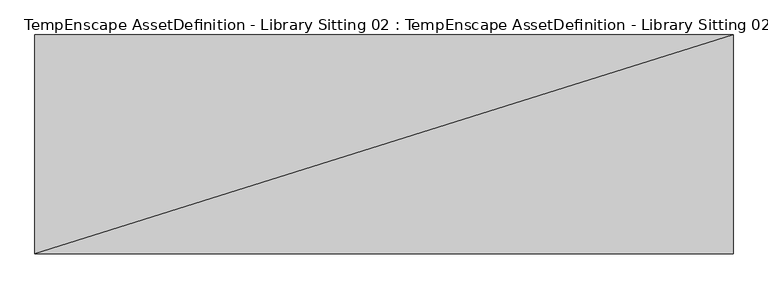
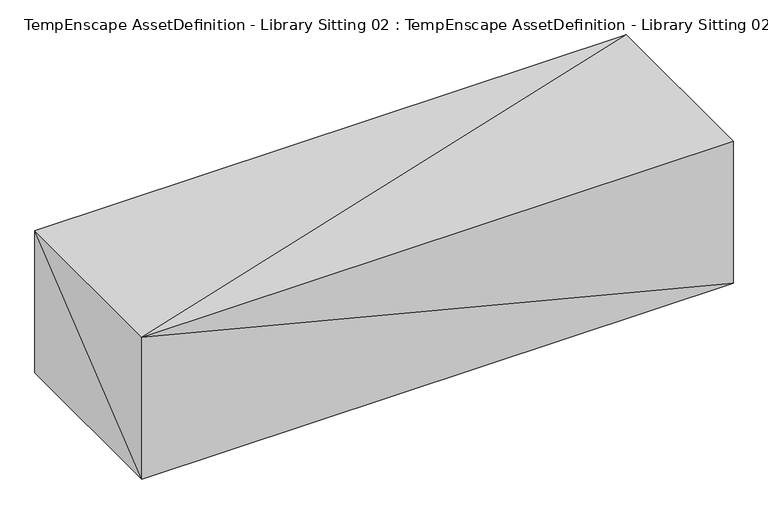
"""IFC4 building model written with IfcOpenShell, lengths in millimetres: geographic element geometry, TempEnscape AssetDefinition - Library Sitting 02 : TempEnscape AssetDefinition - Library Sitting 02."""

from ifc_helpers import new_model, si_unit, origin, place, context, project, spatial, faceted_brep, source, transform, mapped, element, save


def tempenscape_assetdefinition_library_sitting_02_tempenscape_2f781c9f(model_context):
    return source(origin(), model_context, "Body", "Brep", [
        faceted_brep([(900.0000954, 282.2871208, 457.2629929), (-900.0000954, -282.28724, 457.2630227), (900.0000954, -282.28724, 457.2630227), (-900.0000954, 282.2871208, 457.2629929), (900.0000954, 282.2871208, 1.29e-05), (-900.0000954, -282.28724, 3.76e-05), (-900.0000954, 282.2871208, -1.69e-05), (900.0000954, -282.28724, 3.76e-05)], [[[0, 1, 2]], [[3, 1, 0]], [[4, 5, 6]], [[7, 5, 4]], [[7, 1, 5]], [[2, 1, 7]], [[4, 2, 7]], [[0, 2, 4]], [[3, 5, 1]], [[6, 5, 3]], [[0, 6, 3]], [[4, 6, 0]]]),
    ])


if __name__ == "__main__":
    model = new_model("IFC4")
    model_context = context("Model", 3, world=origin())
    ifc_project = project(units=[si_unit("LENGTHUNIT", "METRE", prefix="MILLI")], contexts=[model_context])
    site = spatial("IfcSite", under=ifc_project)
    building = spatial("IfcBuilding", under=site)
    placement = place(None, origin())
    tempenscape_assetdefinition_library_sitting_02_tempenscape_shape = tempenscape_assetdefinition_library_sitting_02_tempenscape_2f781c9f(model_context)
    element("IfcGeographicElement", 1, ObjectType="TempEnscape AssetDefinition - Library Sitting 02 : TempEnscape AssetDefinition - Library Sitting 02", at=placement, inside=building, context=model_context, shape_type="MappedRepresentation", body=[
        mapped(tempenscape_assetdefinition_library_sitting_02_tempenscape_shape, transform((0.0, 0.0, 0.0), x_axis=(1.0, 0.0, 0.0), y_axis=(0.0, 1.0, 0.0), z_axis=(0.0, 0.0, 1.0))),
    ])
    save(model, "model.ifc")
